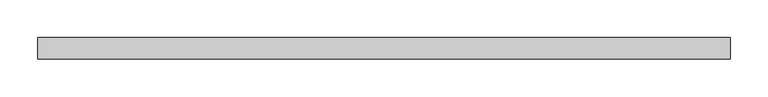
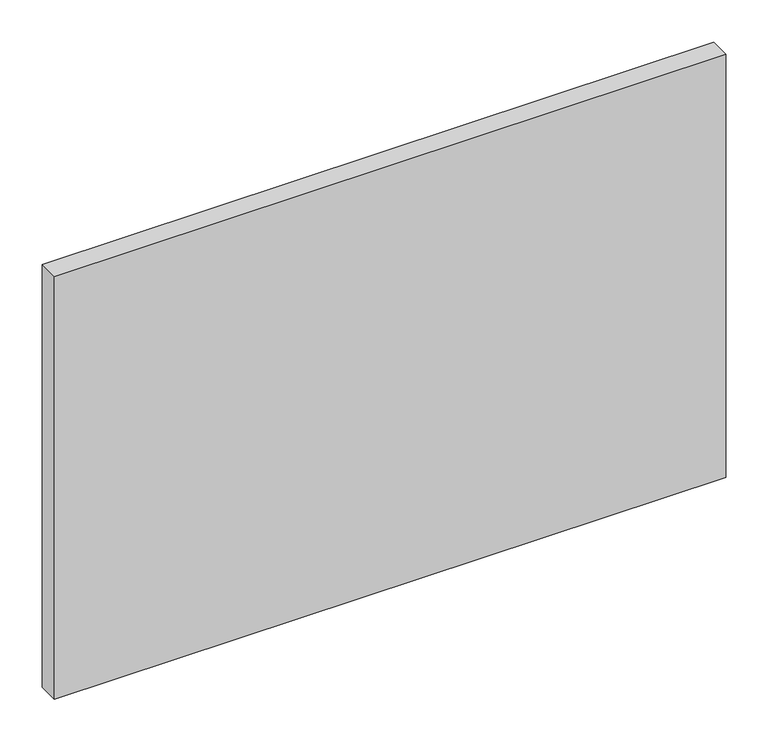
"""IFC4 building model written with IfcOpenShell, lengths in millimetres: proxy geometry, BASYS^PEDESTALS_OVERLAY TOPS-24x36."""

import ifcopenshell
import ifcopenshell.guid

model = None  # the IFC model being written
_history = None  # IfcOwnerHistory: only IFC2X3 demands one
_inside = {}  # id of a spatial element -> (the spatial element, [elements in it])
_under = {}  # id of a project, library or spatial element -> (it, [spatial elements below it])
_declared = {}  # id of a project -> (the project, [libraries it declares])
_typed = {}  # id of a type object -> (the type object, [elements of that type])
_made_of = {}  # id of a material, layer set ... -> (it, [elements and type objects made of it])


def new_model(schema):
    """Start an empty IFC model of exactly this schema.

    Asked for "IFC4X3", IfcOpenShell would pick the latest addendum, in which some entities
    have other attributes; the version numbers below select the first issue.
    IFC2X3 requires an IfcOwnerHistory on every rooted entity: one is made here for all.
    """
    global model, _history
    if schema == "IFC4X3":
        model = ifcopenshell.file(schema_version=(4, 3, 0, 0))
    else:
        model = ifcopenshell.file(schema=schema)
    _inside.clear()
    _under.clear()
    _declared.clear()
    _typed.clear()
    _made_of.clear()
    _history = None
    if model.schema == "IFC2X3":
        org = make("IfcOrganization", Name="unknown")
        user = make(
            "IfcPersonAndOrganization",
            ThePerson=make("IfcPerson", FamilyName="unknown"),
            TheOrganization=org,
        )
        app = make(
            "IfcApplication",
            ApplicationDeveloper=org,
            Version="unknown",
            ApplicationFullName="unknown",
            ApplicationIdentifier="unknown",
        )
        _history = make(
            "IfcOwnerHistory",
            OwningUser=user,
            OwningApplication=app,
            ChangeAction="ADDED",
            CreationDate=0,
        )
    return model


def make(cls, **values):
    """One entity of the class cls with the attributes given. An attribute that is None is left unset."""
    return model.create_entity(
        cls, **{name: value for name, value in values.items() if value is not None}
    )


def rooted(cls, **values):
    """An entity with a GlobalId (a new one), such as an element, a storey or a relation."""
    return make(cls, GlobalId=ifcopenshell.guid.new(), OwnerHistory=_history, **values)


def si_unit(unit_type, name, prefix=None):
    """IfcSIUnit, for example si_unit("LENGTHUNIT", "METRE", prefix="MILLI")."""
    return make("IfcSIUnit", UnitType=unit_type, Prefix=prefix, Name=name)


def assignment(units):
    """IfcUnitAssignment: the units of a project."""
    return None if units is None else make("IfcUnitAssignment", Units=units)


def point(xyz):
    """IfcCartesianPoint."""
    return None if xyz is None else make("IfcCartesianPoint", Coordinates=xyz)


def direction(xyz):
    """IfcDirection."""
    return None if xyz is None else make("IfcDirection", DirectionRatios=xyz)


def frame(location, z_axis=None, x_axis=None):
    """IfcAxis2Placement3D, a coordinate frame: its origin and axes. An axis left out is left unset."""
    return make(
        "IfcAxis2Placement3D",
        Location=point(location),
        Axis=direction(z_axis),
        RefDirection=direction(x_axis),
    )


def origin():
    """The frame at (0, 0, 0) with its axes left unset."""
    return frame((0.0, 0.0, 0.0))


def place(relative_to, where):
    """IfcLocalPlacement: puts the frame where relative to a parent placement (None: the world)."""
    return make(
        "IfcLocalPlacement", PlacementRelTo=relative_to, RelativePlacement=where
    )


def context(
    kind, dimensions, precision=None, world=None, true_north=None, identifier=None
):
    """IfcGeometricRepresentationContext, for example the 3D "Model" context."""
    return make(
        "IfcGeometricRepresentationContext",
        ContextIdentifier=identifier,
        ContextType=kind,
        CoordinateSpaceDimension=dimensions,
        Precision=precision,
        WorldCoordinateSystem=world,
        TrueNorth=true_north,
    )


def project(units=None, contexts=None):
    """IfcProject with its units and contexts."""
    return rooted(
        "IfcProject",
        Name="project",
        RepresentationContexts=contexts,
        UnitsInContext=assignment(units),
    )


def spatial(cls, under=None, at=None, **own):
    """A site, building, storey or space (cls), placed at a placement, below another one or the project."""
    s = rooted(cls, ObjectPlacement=at, **own)
    if under is not None:
        _under.setdefault(under.id(), (under, []))[1].append(s)
    return s


def polyline(points):
    """IfcPolyline through the points."""
    return make("IfcPolyline", Points=[point(p) for p in points])


def outline(outer, holes=None, kind="AREA"):
    """IfcArbitraryClosedProfileDef: a profile drawn as a closed curve; with holes, ...WithVoids."""
    if holes is None:
        return make("IfcArbitraryClosedProfileDef", ProfileType=kind, OuterCurve=outer)
    return make(
        "IfcArbitraryProfileDefWithVoids",
        ProfileType=kind,
        OuterCurve=outer,
        InnerCurves=holes,
    )


def extrude(swept, where, along, depth):
    """IfcExtrudedAreaSolid: the profile swept, set in the frame where, extruded along a direction by depth."""
    return make(
        "IfcExtrudedAreaSolid",
        SweptArea=swept,
        Position=where,
        ExtrudedDirection=direction(along),
        Depth=depth,
    )


def shape(context_of_items, identifier, shape_type, items):
    """IfcShapeRepresentation: the items that make up one representation, for example the "Body"."""
    return make(
        "IfcShapeRepresentation",
        ContextOfItems=context_of_items,
        RepresentationIdentifier=identifier,
        RepresentationType=shape_type,
        Items=items,
    )


def source(mapping_origin, context_of_items, identifier, shape_type, items):
    """IfcRepresentationMap: a shape defined once, which mapped items show again and again."""
    return make(
        "IfcRepresentationMap",
        MappingOrigin=mapping_origin,
        MappedRepresentation=shape(context_of_items, identifier, shape_type, items),
    )


def transform(
    local_origin,
    x_axis=None,
    y_axis=None,
    z_axis=None,
    scale=None,
    scale2=None,
    scale3=None,
    uniform=True,
):
    """IfcCartesianTransformationOperator3D, or its non-uniform kind. x_axis, y_axis, z_axis: its Axis1, 2, 3."""
    if uniform:
        return make(
            "IfcCartesianTransformationOperator3D",
            Axis1=direction(x_axis),
            Axis2=direction(y_axis),
            LocalOrigin=point(local_origin),
            Scale=scale,
            Axis3=direction(z_axis),
        )
    return make(
        "IfcCartesianTransformationOperator3DnonUniform",
        Axis1=direction(x_axis),
        Axis2=direction(y_axis),
        LocalOrigin=point(local_origin),
        Scale=scale,
        Axis3=direction(z_axis),
        Scale2=scale2,
        Scale3=scale3,
    )


def mapped(mapping_source, mapping_target):
    """IfcMappedItem: shows the shape of a source again, moved by a transform."""
    return make(
        "IfcMappedItem", MappingSource=mapping_source, MappingTarget=mapping_target
    )


def made_of(thing, what):
    """Note that an element or type object is made of a material, layer set ...; save() writes the relation."""
    if what is not None:
        _made_of.setdefault(what.id(), (what, []))[1].append(thing)
    return thing


def element(
    cls,
    number,
    at=None,
    inside=None,
    cuts=None,
    type_object=None,
    material=None,
    context=None,
    identifier="Body",
    shape_type=None,
    held_by="IfcProductDefinitionShape",
    body=None,
    shapes=None,
    **own,
):
    """One element of the class cls, such as IfcWall. Its Tag is "e" and its number.

    at: its placement. inside: the storey or other place that contains it. cuts: it is an
    opening in that element (IfcRelVoidsElement). A single representation is given by context,
    identifier, shape_type and body (its items); several are given by shapes. held_by: the class
    of the entity that holds the representations. save() writes the other relations.
    """
    e = rooted(cls, Tag="e%d" % number, ObjectPlacement=at, **own)
    if body is not None:
        shapes = [shape(context, identifier, shape_type, body)]
    if shapes is not None:
        e.Representation = make(held_by, Representations=shapes)
    if inside is not None:
        _inside.setdefault(inside.id(), (inside, []))[1].append(e)
    if cuts is not None:
        rooted(
            "IfcRelVoidsElement", RelatingBuildingElement=cuts, RelatedOpeningElement=e
        )
    if type_object is not None:
        _typed.setdefault(type_object.id(), (type_object, []))[1].append(e)
    return made_of(e, material)


def aggregate(whole, parts):
    """IfcRelAggregates: a whole, such as a stair, and the parts it consists of."""
    return rooted("IfcRelAggregates", RelatingObject=whole, RelatedObjects=parts)


def save(model, path):
    """Write the relations noted so far, then the file.

    IfcRelAggregates (storeys below a building ...), IfcRelContainedInSpatialStructure (elements
    in a storey), IfcRelDefinesByType, IfcRelAssociatesMaterial and IfcRelDeclares: one each for
    every whole, place, type object, material and project.
    """
    for whole, parts in _under.values():
        aggregate(whole, parts)
    for where, things in _inside.values():
        rooted(
            "IfcRelContainedInSpatialStructure",
            RelatedElements=things,
            RelatingStructure=where,
        )
    for kind, things in _typed.values():
        rooted("IfcRelDefinesByType", RelatedObjects=things, RelatingType=kind)
    for what, things in _made_of.values():
        rooted("IfcRelAssociatesMaterial", RelatedObjects=things, RelatingMaterial=what)
    for by, libraries in _declared.values():
        rooted("IfcRelDeclares", RelatingContext=by, RelatedDefinitions=libraries)
    model.write(path)


def generic_models_0bd24fbb(model_context):
    return source(origin(), model_context, "Body", "SweptSolid", [
        extrude(outline(polyline([(914.4, 0.0), (0.0, 0.0), (0.0, 28.575), (914.4, 28.575), (914.4, 0.0)])), frame((0.0, 0.0, -609.6), z_axis=(0.0, 0.0, 1.0), x_axis=(1.0, 0.0, 0.0)), (0.0, 0.0, 1.0), 609.6),
    ])


if __name__ == "__main__":
    model = new_model("IFC4")
    model_context = context("Model", 3, world=origin())
    ifc_project = project(units=[si_unit("LENGTHUNIT", "METRE", prefix="MILLI")], contexts=[model_context])
    site = spatial("IfcSite", under=ifc_project)
    building = spatial("IfcBuilding", under=site)
    placement = place(None, origin())
    generic_models_shape = generic_models_0bd24fbb(model_context)
    element("IfcBuildingElementProxy", 1, Name="BASYS^PEDESTALS_OVERLAY TOPS-24x36", ObjectType="BASYS^PEDESTALS_OVERLAY TOPS-24x36", at=placement, inside=building, context=model_context, shape_type="MappedRepresentation", body=[
        mapped(generic_models_shape, transform((0.0, 0.0, 0.0), x_axis=(1.0, 0.0, 0.0), y_axis=(0.0, 1.0, 0.0), z_axis=(0.0, 0.0, 1.0))),
    ])
    save(model, "model.ifc")
